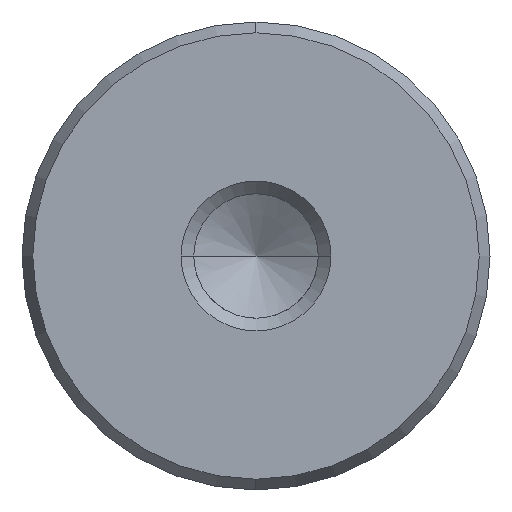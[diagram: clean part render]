
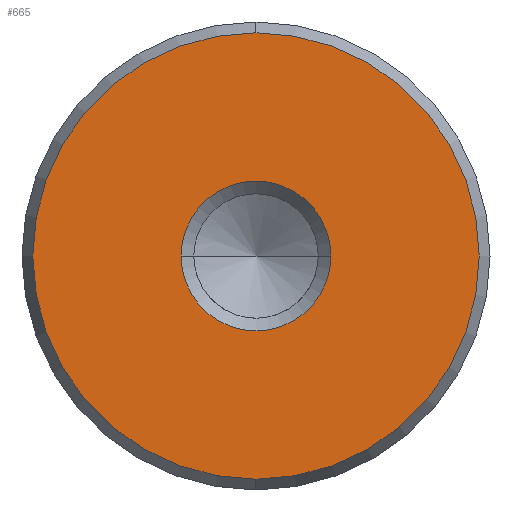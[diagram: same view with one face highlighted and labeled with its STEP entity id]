
A CAD part, left-side view. The second image highlights one B-rep face of the part: STEP entity #665.
In plain terms, the highlighted planar face has unit normal (-1, 0, 0).
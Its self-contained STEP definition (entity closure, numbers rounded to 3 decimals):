
#579=CARTESIAN_POINT('Vertex',(0.,0.,-11.923)) ;
#582=CARTESIAN_POINT('Axis2P3D Location',(0.,0.,0.)) ;
#586=CARTESIAN_POINT('Vertex',(0.,11.923,0.)) ;
#589=CARTESIAN_POINT('Axis2P3D Location',(0.,0.,0.)) ;
#593=CARTESIAN_POINT('Vertex',(0.,0.,11.923)) ;
#615=CARTESIAN_POINT('Axis2P3D Location',(0.,0.,0.)) ;
#619=CARTESIAN_POINT('Vertex',(0.,-11.923,0.)) ;
#622=CARTESIAN_POINT('Axis2P3D Location',(0.,0.,0.)) ;
#636=CARTESIAN_POINT('Axis2P3D Location',(0.,0.,0.)) ;
#647=CARTESIAN_POINT('Axis2P3D Location',(0.,0.,0.)) ;
#651=CARTESIAN_POINT('Vertex',(0.,4.,0.)) ;
#653=CARTESIAN_POINT('Vertex',(0.,-4.,0.)) ;
#656=CARTESIAN_POINT('Axis2P3D Location',(0.,0.,0.)) ;
#583=DIRECTION('Axis2P3D Direction',(1.,0.,-0.)) ;
#590=DIRECTION('Axis2P3D Direction',(1.,0.,-0.)) ;
#616=DIRECTION('Axis2P3D Direction',(1.,0.,-0.)) ;
#623=DIRECTION('Axis2P3D Direction',(1.,0.,-0.)) ;
#637=DIRECTION('Axis2P3D Direction',(1.,0.,-0.)) ;
#638=DIRECTION('Axis2P3D XDirection',(-0.,0.,-1.)) ;
#648=DIRECTION('Axis2P3D Direction',(1.,0.,-0.)) ;
#657=DIRECTION('Axis2P3D Direction',(1.,0.,-0.)) ;
#584=AXIS2_PLACEMENT_3D('Circle Axis2P3D',#582,#583,$) ;
#591=AXIS2_PLACEMENT_3D('Circle Axis2P3D',#589,#590,$) ;
#617=AXIS2_PLACEMENT_3D('Circle Axis2P3D',#615,#616,$) ;
#624=AXIS2_PLACEMENT_3D('Circle Axis2P3D',#622,#623,$) ;
#639=AXIS2_PLACEMENT_3D('Plane Axis2P3D',#636,#637,#638) ;
#649=AXIS2_PLACEMENT_3D('Circle Axis2P3D',#647,#648,$) ;
#658=AXIS2_PLACEMENT_3D('Circle Axis2P3D',#656,#657,$) ;
#642=ORIENTED_EDGE('',*,*,#588,.F.) ;
#643=ORIENTED_EDGE('',*,*,#626,.F.) ;
#644=ORIENTED_EDGE('',*,*,#621,.F.) ;
#645=ORIENTED_EDGE('',*,*,#595,.F.) ;
#662=ORIENTED_EDGE('',*,*,#655,.T.) ;
#663=ORIENTED_EDGE('',*,*,#660,.T.) ;
#664=FACE_BOUND('',#661,.T.) ;
#665=ADVANCED_FACE('720-25x400',(#646,#664),#640,.F.) ;
#585=CIRCLE('generated circle',#584,11.923) ;
#592=CIRCLE('generated circle',#591,11.923) ;
#618=CIRCLE('generated circle',#617,11.923) ;
#625=CIRCLE('generated circle',#624,11.923) ;
#650=CIRCLE('generated circle',#649,4.) ;
#659=CIRCLE('generated circle',#658,4.) ;
#588=EDGE_CURVE('',#580,#587,#585,.T.) ;
#595=EDGE_CURVE('',#587,#594,#592,.T.) ;
#621=EDGE_CURVE('',#594,#620,#618,.T.) ;
#626=EDGE_CURVE('',#620,#580,#625,.T.) ;
#655=EDGE_CURVE('',#652,#654,#650,.T.) ;
#660=EDGE_CURVE('',#654,#652,#659,.T.) ;
#641=EDGE_LOOP('',(#642,#643,#644,#645)) ;
#661=EDGE_LOOP('',(#662,#663)) ;
#646=FACE_OUTER_BOUND('',#641,.T.) ;
#640=PLANE('Plane',#639) ;
#580=VERTEX_POINT('',#579) ;
#587=VERTEX_POINT('',#586) ;
#594=VERTEX_POINT('',#593) ;
#620=VERTEX_POINT('',#619) ;
#652=VERTEX_POINT('',#651) ;
#654=VERTEX_POINT('',#653) ;
